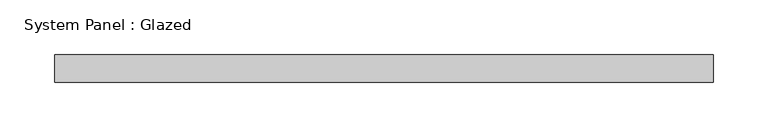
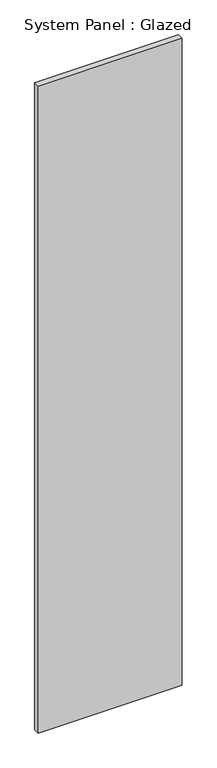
"""IFC4 building model written with IfcOpenShell, lengths in millimetres: plate geometry, System Panel : Glazed."""

from ifc_helpers import new_model, si_unit, origin, origin_with_axes, place, context, project, spatial, polyline, outline, extrude, source, transform, mapped, element, save


def system_panel_glazed_325272a1(model_context):
    return source(origin(), model_context, "Body", "SweptSolid", [
        extrude(outline(polyline([(300.0, 24.5), (-300.0, 24.5), (-300.0, 49.5), (300.0, 49.5), (300.0, 24.5)])), origin_with_axes(), (0.0, 0.0, 1.0), 2850.0),
    ])


if __name__ == "__main__":
    model = new_model("IFC4")
    model_context = context("Model", 3, world=origin())
    ifc_project = project(units=[si_unit("LENGTHUNIT", "METRE", prefix="MILLI")], contexts=[model_context])
    site = spatial("IfcSite", under=ifc_project)
    building = spatial("IfcBuilding", under=site)
    placement = place(None, origin())
    system_panel_glazed_shape = system_panel_glazed_325272a1(model_context)
    element("IfcPlate", 1, ObjectType="System Panel : Glazed", at=placement, inside=building, context=model_context, shape_type="MappedRepresentation", body=[
        mapped(system_panel_glazed_shape, transform((0.0, 0.0, 0.0), x_axis=(1.0, 0.0, 0.0), y_axis=(0.0, 1.0, 0.0), z_axis=(0.0, 0.0, 1.0))),
    ])
    save(model, "model.ifc")
